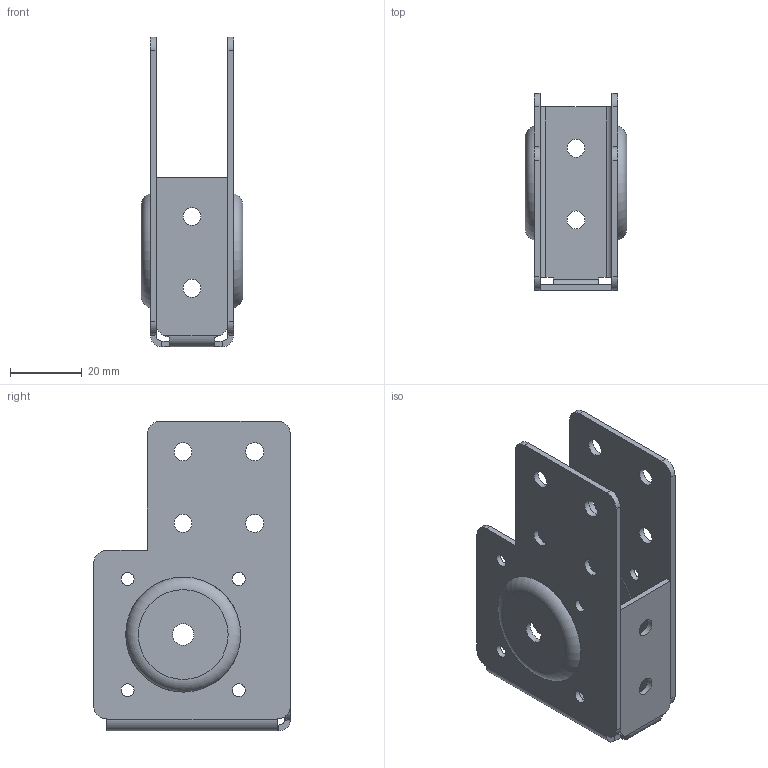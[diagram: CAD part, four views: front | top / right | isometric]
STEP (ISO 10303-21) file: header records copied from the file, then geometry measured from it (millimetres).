
FILE_DESCRIPTION(('FreeCAD Model'),'2;1');
FILE_NAME('Open CASCADE Shape Model','2021-05-04T09:53:55',('Author'),( ''),'Open CASCADE STEP processor 7.5','FreeCAD','Unknown');
FILE_SCHEMA(('AUTOMOTIVE_DESIGN { 1 0 10303 214 1 1 1 1 }'));
Length unit declared in the file: millimetre
Products named in the file (1): Linear Actuator End Mount v1
Bounding box: 28.4 x 54.9 x 86.33 mm (x, y, z)
Volume: 15918.9 mm3; surface area: 21362.7 mm2
Topology: 1 solids, 1 shells, 90 faces, 279 edges, 191 vertices
Faces by surface type: plane 40, cylinder 40, torus 8, bspline 2
Full cylindrical faces by diameter (mm): 3.6 x8, 5 x12, 6 x2
Entity records: 7454 total; most frequent: CARTESIAN_POINT 1987, DIRECTION 1037, ORIENTED_EDGE 558, PCURVE 558, DEFINITIONAL_REPRESENTATION 558, LINE 541, VECTOR 541, EDGE_CURVE 279
